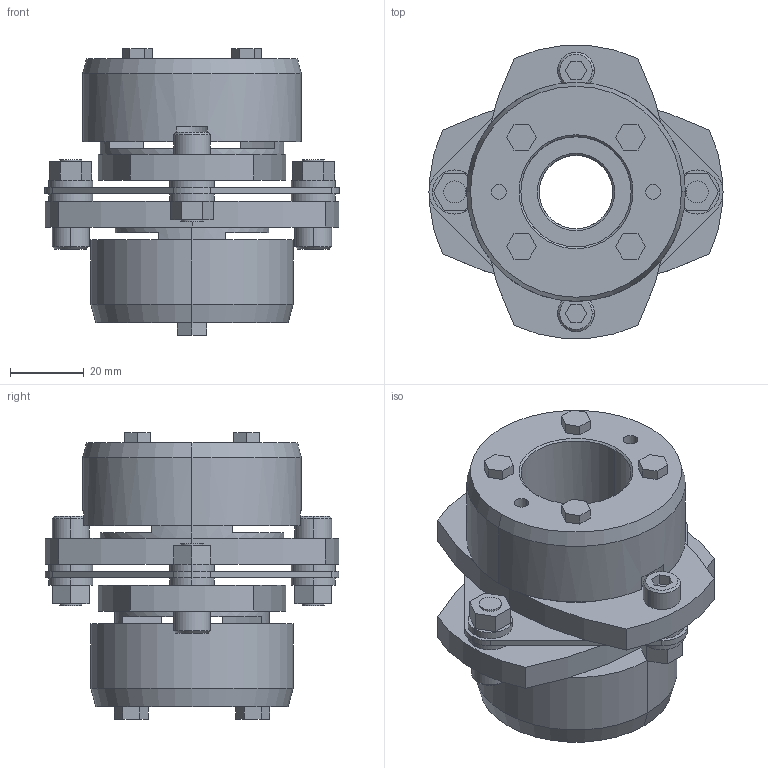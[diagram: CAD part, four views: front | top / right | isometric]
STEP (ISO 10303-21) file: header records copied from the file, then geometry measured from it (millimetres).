
FILE_DESCRIPTION((''),'2;1');
FILE_NAME('LCS-80T7-20×30.stp','2011-09-12T15:28:01',(''),(''),'AutoCAD STEP 2000i','AutoCAD 2000i',', , ');
FILE_SCHEMA(('CONFIG_CONTROL_DESIGN'));
Length unit declared in the file: millimetre
Products named in the file (11): LCS-80T7-19×30; 忣兜1; LC80T7-T030; LC80T7-T028; LC80T7-T024; LC80T7-T022; LC80T7-T019-1; LC80T7-T019; LC80T7-T017-1; LC80T7-T017; LCS80-ITA
Assembly tree (10 placements, depth 2):
  LCS-80T7-19×30
    忣兜1
    LC80T7-T030
    LC80T7-T028
    LC80T7-T024
    LC80T7-T022
    LC80T7-T019-1
    LC80T7-T019
    LC80T7-T017-1
    LC80T7-T017
    LCS80-ITA
Bounding box: 80 x 79.95 x 78.05 mm (x, y, z)
Volume: 148443.8 mm3; surface area: 43013.7 mm2
Topology: 1 solids, 1 shells, 236 faces, 580 edges, 380 vertices
Faces by surface type: plane 134, cylinder 82, cone 20
Entity records: 7259 total; most frequent: DIRECTION 1278, CARTESIAN_POINT 1207, ORIENTED_EDGE 1160, EDGE_CURVE 580, AXIS2_PLACEMENT_3D 451, VERTEX_POINT 380, VECTOR 376, LINE 376
